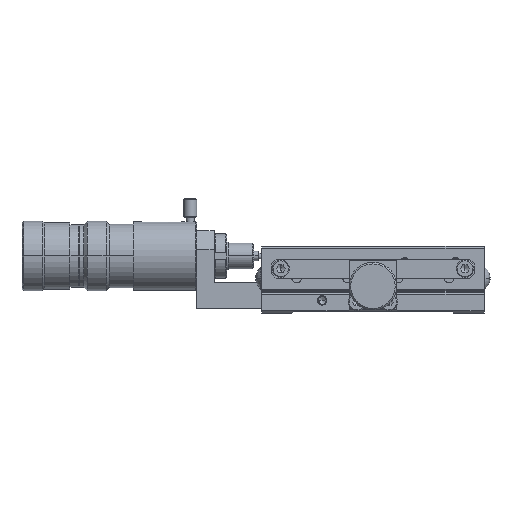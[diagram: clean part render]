
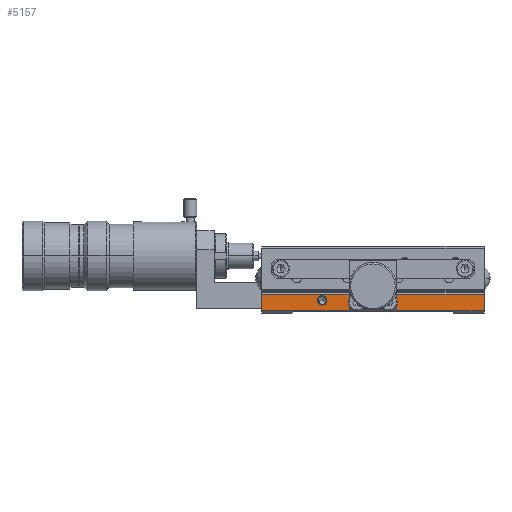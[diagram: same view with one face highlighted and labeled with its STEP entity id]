
A CAD part, left-side view. The second image highlights one B-rep face of the part: STEP entity #5157.
In plain terms, the highlighted planar face has unit normal (-1, 0, 0).
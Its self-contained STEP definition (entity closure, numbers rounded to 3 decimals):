
#4572 = VERTEX_POINT ( 'NONE', #25800 ) ;
#4574 = EDGE_CURVE ( 'NONE', #4572, #4575, #25799, .T. ) ;
#4575 = VERTEX_POINT ( 'NONE', #25794 ) ;
#5092 = VERTEX_POINT ( 'NONE', #27342 ) ;
#5094 = EDGE_CURVE ( 'NONE', #5092, #5096, #27403, .T. ) ;
#5096 = VERTEX_POINT ( 'NONE', #27399 ) ;
#5099 = VERTEX_POINT ( 'NONE', #27394 ) ;
#5101 = EDGE_CURVE ( 'NONE', #5099, #5102, #27393, .T. ) ;
#5102 = VERTEX_POINT ( 'NONE', #27389 ) ;
#5140 = EDGE_CURVE ( 'NONE', #5141, #5166, #27452, .T. ) ;
#5141 = VERTEX_POINT ( 'NONE', #27446 ) ;
#5142 = ORIENTED_EDGE ( 'NONE', *, *, #5143, .F. ) ;
#5143 = EDGE_CURVE ( 'NONE', #5096, #5141, #27445, .T. ) ;
#5144 = ORIENTED_EDGE ( 'NONE', *, *, #5094, .F. ) ;
#5145 = ORIENTED_EDGE ( 'NONE', *, *, #5146, .T. ) ;
#5146 = EDGE_CURVE ( 'NONE', #5092, #5147, #27441, .T. ) ;
#5147 = VERTEX_POINT ( 'NONE', #27437 ) ;
#5148 = ORIENTED_EDGE ( 'NONE', *, *, #5149, .T. ) ;
#5149 = EDGE_CURVE ( 'NONE', #5147, #5150, #27501, .T. ) ;
#5150 = VERTEX_POINT ( 'NONE', #27497 ) ;
#5151 = ORIENTED_EDGE ( 'NONE', *, *, #5152, .F. ) ;
#5152 = EDGE_CURVE ( 'NONE', #5102, #5150, #27496, .T. ) ;
#5157 = ADVANCED_FACE ( 'NONE', ( #27480, #27479 ), #27478, .T. ) ;
#5158 = EDGE_LOOP ( 'NONE', ( #5159, #5161 ) ) ;
#5159 = ORIENTED_EDGE ( 'NONE', *, *, #5160, .F. ) ;
#5160 = EDGE_CURVE ( 'NONE', #4575, #4572, #27472, .T. ) ;
#5161 = ORIENTED_EDGE ( 'NONE', *, *, #4574, .F. ) ;
#5162 = EDGE_LOOP ( 'NONE', ( #5163, #5164, #5167, #5142, #5144, #5145, #5148, #5151 ) ) ;
#5163 = ORIENTED_EDGE ( 'NONE', *, *, #5101, .F. ) ;
#5164 = ORIENTED_EDGE ( 'NONE', *, *, #5165, .T. ) ;
#5165 = EDGE_CURVE ( 'NONE', #5099, #5166, #27530, .T. ) ;
#5166 = VERTEX_POINT ( 'NONE', #27526 ) ;
#5167 = ORIENTED_EDGE ( 'NONE', *, *, #5140, .F. ) ;
#25794 = CARTESIAN_POINT ( 'NONE',  ( -35., 14.5, 4. ) ) ;
#25795 = DIRECTION ( 'NONE',  ( 0., -1., 0. ) ) ;
#25796 = DIRECTION ( 'NONE',  ( -1., 0., 0. ) ) ;
#25797 = CARTESIAN_POINT ( 'NONE',  ( -35., 16., 4. ) ) ;
#25798 = AXIS2_PLACEMENT_3D ( 'NONE', #25797, #25796, #25795 ) ;
#25799 = CIRCLE ( 'NONE', #25798, 1.5 ) ;
#25800 = CARTESIAN_POINT ( 'NONE',  ( -35., 17.5, 4. ) ) ;
#27342 = CARTESIAN_POINT ( 'NONE',  ( -35., -35., 0.8 ) ) ;
#27389 = CARTESIAN_POINT ( 'NONE',  ( -35., 35., 0.8 ) ) ;
#27390 = DIRECTION ( 'NONE',  ( 0., 1., 0. ) ) ;
#27391 = VECTOR ( 'NONE', #27390, 1000. ) ;
#27392 = CARTESIAN_POINT ( 'NONE',  ( -35., -35., 0.8 ) ) ;
#27393 = LINE ( 'NONE', #27392, #27391 ) ;
#27394 = CARTESIAN_POINT ( 'NONE',  ( -35., 7.5, 0.8 ) ) ;
#27399 = CARTESIAN_POINT ( 'NONE',  ( -35., -7.5, 0.8 ) ) ;
#27400 = DIRECTION ( 'NONE',  ( 0., 1., 0. ) ) ;
#27401 = VECTOR ( 'NONE', #27400, 1000. ) ;
#27402 = CARTESIAN_POINT ( 'NONE',  ( -35., -35., 0.8 ) ) ;
#27403 = LINE ( 'NONE', #27402, #27401 ) ;
#27437 = CARTESIAN_POINT ( 'NONE',  ( -35., -35., 6. ) ) ;
#27438 = DIRECTION ( 'NONE',  ( 0., 0., 1. ) ) ;
#27439 = VECTOR ( 'NONE', #27438, 1000. ) ;
#27440 = CARTESIAN_POINT ( 'NONE',  ( -35., -35., 0.8 ) ) ;
#27441 = LINE ( 'NONE', #27440, #27439 ) ;
#27442 = DIRECTION ( 'NONE',  ( 0., 0., 1. ) ) ;
#27443 = VECTOR ( 'NONE', #27442, 1000. ) ;
#27444 = CARTESIAN_POINT ( 'NONE',  ( -35., -7.5, 0.8 ) ) ;
#27445 = LINE ( 'NONE', #27444, #27443 ) ;
#27446 = CARTESIAN_POINT ( 'NONE',  ( -35., -7.5, 5.5 ) ) ;
#27447 = DIRECTION ( 'NONE',  ( 0., 1., 0. ) ) ;
#27448 = VECTOR ( 'NONE', #27447, 1000. ) ;
#27449 = CARTESIAN_POINT ( 'NONE',  ( -35., -35., 5.5 ) ) ;
#27452 = LINE ( 'NONE', #27449, #27448 ) ;
#27470 = DIRECTION ( 'NONE',  ( -1., 0., 0. ) ) ;
#27471 = AXIS2_PLACEMENT_3D ( 'NONE', #27476, #27470, #27531 ) ;
#27472 = CIRCLE ( 'NONE', #27471, 1.5 ) ;
#27473 = DIRECTION ( 'NONE',  ( 0., 1., 0. ) ) ;
#27474 = DIRECTION ( 'NONE',  ( -1., 0., 0. ) ) ;
#27475 = AXIS2_PLACEMENT_3D ( 'NONE', #27477, #27474, #27473 ) ;
#27476 = CARTESIAN_POINT ( 'NONE',  ( -35., 16., 4. ) ) ;
#27477 = CARTESIAN_POINT ( 'NONE',  ( -35., -35., 0.8 ) ) ;
#27478 = PLANE ( 'NONE',  #27475 ) ;
#27479 = FACE_OUTER_BOUND ( 'NONE', #5162, .T. ) ;
#27480 = FACE_BOUND ( 'NONE', #5158, .T. ) ;
#27493 = DIRECTION ( 'NONE',  ( 0., 0., 1. ) ) ;
#27494 = VECTOR ( 'NONE', #27493, 1000. ) ;
#27495 = CARTESIAN_POINT ( 'NONE',  ( -35., 35., 0.8 ) ) ;
#27496 = LINE ( 'NONE', #27495, #27494 ) ;
#27497 = CARTESIAN_POINT ( 'NONE',  ( -35., 35., 6. ) ) ;
#27498 = DIRECTION ( 'NONE',  ( 0., 1., 0. ) ) ;
#27499 = VECTOR ( 'NONE', #27498, 1000. ) ;
#27500 = CARTESIAN_POINT ( 'NONE',  ( -35., -35., 6. ) ) ;
#27501 = LINE ( 'NONE', #27500, #27499 ) ;
#27526 = CARTESIAN_POINT ( 'NONE',  ( -35., 7.5, 5.5 ) ) ;
#27527 = DIRECTION ( 'NONE',  ( 0., 0., 1. ) ) ;
#27528 = VECTOR ( 'NONE', #27527, 1000. ) ;
#27529 = CARTESIAN_POINT ( 'NONE',  ( -35., 7.5, 0.8 ) ) ;
#27530 = LINE ( 'NONE', #27529, #27528 ) ;
#27531 = DIRECTION ( 'NONE',  ( 0., -1., 0. ) ) ;
